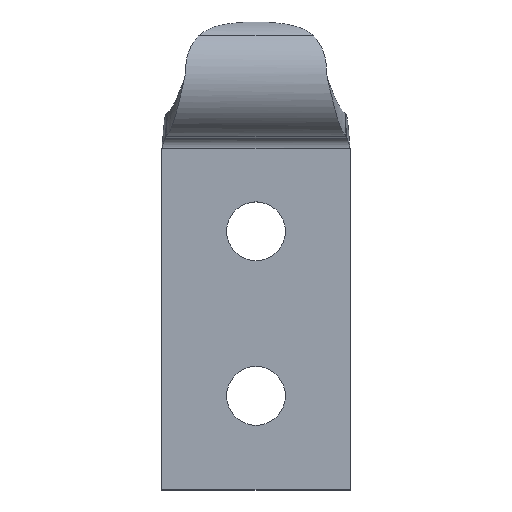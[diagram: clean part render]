
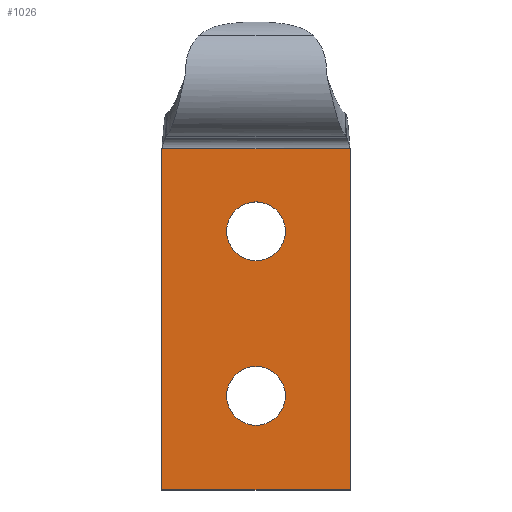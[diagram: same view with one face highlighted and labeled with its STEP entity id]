
A CAD part, top view. The second image highlights one B-rep face of the part: STEP entity #1026.
In plain terms, the highlighted planar face has unit normal (0, 0, 1).
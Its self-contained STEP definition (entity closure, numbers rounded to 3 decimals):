
#216=CARTESIAN_POINT('',(-8.612,19.897,-5.75));
#217=VERTEX_POINT('',#216);
#226=CARTESIAN_POINT('',(7.388,19.897,-5.75));
#227=VERTEX_POINT('',#226);
#228=CARTESIAN_POINT('',(7.388,19.897,-5.75));
#229=DIRECTION('',(-1.0,0.0,0.0));
#230=VECTOR('',#229,16.0);
#231=LINE('',#228,#230);
#232=EDGE_CURVE('',#227,#217,#231,.T.);
#330=CARTESIAN_POINT('',(1.888,-1.103,-5.75));
#331=VERTEX_POINT('',#330);
#340=CARTESIAN_POINT('',(-3.112,-1.103,-5.75));
#341=VERTEX_POINT('',#340);
#342=CARTESIAN_POINT('',(-0.612,-1.103,-5.75));
#343=DIRECTION('',(0.0,0.0,-1.0));
#344=DIRECTION('',(1.0,0.0,0.0));
#345=AXIS2_PLACEMENT_3D('',#342,#343,#344);
#346=CIRCLE('',#345,2.5);
#347=EDGE_CURVE('',#341,#331,#346,.T.);
#404=CARTESIAN_POINT('',(1.888,12.897,-5.75));
#405=VERTEX_POINT('',#404);
#414=CARTESIAN_POINT('',(-3.112,12.897,-5.75));
#415=VERTEX_POINT('',#414);
#416=CARTESIAN_POINT('',(-0.612,12.897,-5.75));
#417=DIRECTION('',(0.0,0.0,-1.0));
#418=DIRECTION('',(1.0,0.0,0.0));
#419=AXIS2_PLACEMENT_3D('',#416,#417,#418);
#420=CIRCLE('',#419,2.5);
#421=EDGE_CURVE('',#415,#405,#420,.T.);
#505=CARTESIAN_POINT('',(-0.612,12.897,-5.75));
#506=DIRECTION('',(0.0,0.0,-1.0));
#507=DIRECTION('',(1.0,0.0,0.0));
#508=AXIS2_PLACEMENT_3D('',#505,#506,#507);
#509=CIRCLE('',#508,2.5);
#510=EDGE_CURVE('',#405,#415,#509,.T.);
#547=CARTESIAN_POINT('',(-0.612,-1.103,-5.75));
#548=DIRECTION('',(0.0,0.0,-1.0));
#549=DIRECTION('',(1.0,0.0,0.0));
#550=AXIS2_PLACEMENT_3D('',#547,#548,#549);
#551=CIRCLE('',#550,2.5);
#552=EDGE_CURVE('',#331,#341,#551,.T.);
#988=CARTESIAN_POINT('',(-1.112,13.942,-5.75));
#989=DIRECTION('',(0.0,0.0,1.0));
#990=DIRECTION('',(1.0,0.0,0.0));
#991=AXIS2_PLACEMENT_3D('',#988,#989,#990);
#992=PLANE('',#991);
#993=ORIENTED_EDGE('',*,*,#232,.T.);
#994=CARTESIAN_POINT('',(-8.612,-9.103,-5.75));
#995=VERTEX_POINT('',#994);
#996=CARTESIAN_POINT('',(-8.612,-9.103,-5.75));
#997=DIRECTION('',(0.0,1.0,0.0));
#998=VECTOR('',#997,29.0);
#999=LINE('',#996,#998);
#1000=EDGE_CURVE('',#995,#217,#999,.T.);
#1001=ORIENTED_EDGE('',*,*,#1000,.F.);
#1002=CARTESIAN_POINT('',(7.388,-9.103,-5.75));
#1003=VERTEX_POINT('',#1002);
#1004=CARTESIAN_POINT('',(7.388,-9.103,-5.75));
#1005=DIRECTION('',(-1.0,0.0,0.0));
#1006=VECTOR('',#1005,16.0);
#1007=LINE('',#1004,#1006);
#1008=EDGE_CURVE('',#1003,#995,#1007,.T.);
#1009=ORIENTED_EDGE('',*,*,#1008,.F.);
#1010=CARTESIAN_POINT('',(7.388,19.897,-5.75));
#1011=DIRECTION('',(0.0,-1.0,0.0));
#1012=VECTOR('',#1011,29.0);
#1013=LINE('',#1010,#1012);
#1014=EDGE_CURVE('',#227,#1003,#1013,.T.);
#1015=ORIENTED_EDGE('',*,*,#1014,.F.);
#1016=EDGE_LOOP('',(#993,#1001,#1009,#1015));
#1017=FACE_OUTER_BOUND('',#1016,.T.);
#1018=ORIENTED_EDGE('',*,*,#421,.T.);
#1019=ORIENTED_EDGE('',*,*,#510,.T.);
#1020=EDGE_LOOP('',(#1018,#1019));
#1021=FACE_BOUND('',#1020,.T.);
#1022=ORIENTED_EDGE('',*,*,#347,.T.);
#1023=ORIENTED_EDGE('',*,*,#552,.T.);
#1024=EDGE_LOOP('',(#1022,#1023));
#1025=FACE_BOUND('',#1024,.T.);
#1026=ADVANCED_FACE('',(#1017,#1021,#1025),#992,.T.);
